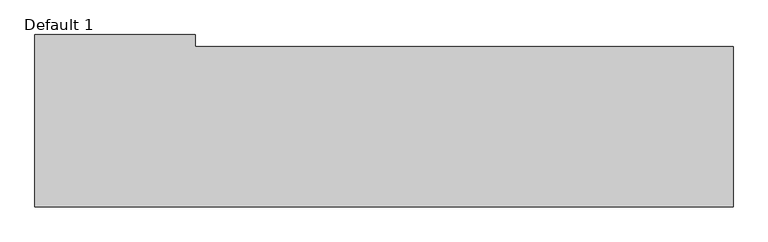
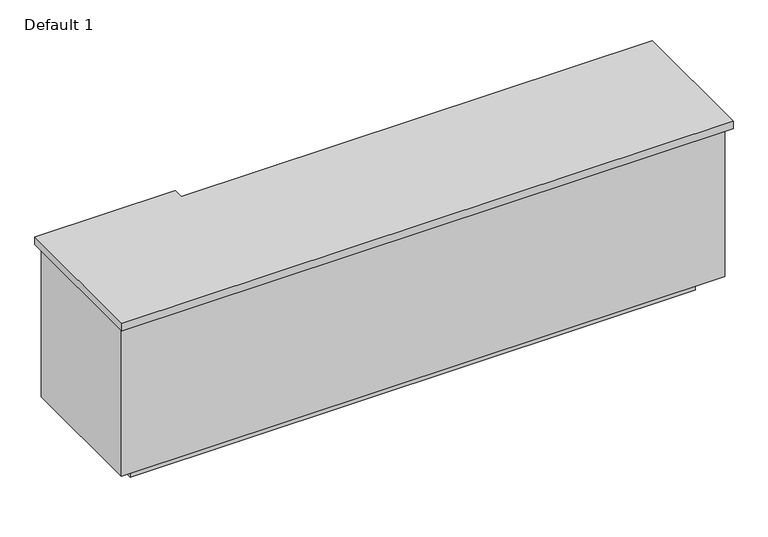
"""IFC4 building model written with IfcOpenShell, lengths in millimetres: proxy geometry, Countertop- L  Shape base : Default 1."""

from ifc_helpers import new_model, si_unit, frame, origin, origin_with_axes, place, context, project, spatial, polyline, outline, extrude, source, transform, mapped, element, save


def default_1_c051f466(model_context):
    return source(origin(), model_context, "Body", "SweptSolid", [
        extrude(outline(polyline([(-1434.6, -19.05), (-1434.6, 711.2), (-755.15, 711.2), (-755.15, 660.4), (1524.5, 660.4), (1524.5, -19.05), (-1434.6, -19.05)])), frame((0.0, 0.0, 876.3), z_axis=(0.0, 0.0, 1.0), x_axis=(1.0, 0.0, 0.0)), (0.0, 0.0, 1.0), 38.1),
        extrude(outline(polyline([(1505.45, 641.35), (1505.45, 19.05), (-1415.55, 19.05), (-1415.55, 692.15), (-774.2, 692.15), (-774.2, 641.35), (1505.45, 641.35)])), frame((0.0, 0.0, 101.6), z_axis=(0.0, 0.0, 1.0), x_axis=(1.0, 0.0, 0.0)), (0.0, 0.0, 1.0), 774.7),
        extrude(outline(polyline([(-850.5545837, 590.55), (-850.5545837, 539.75), (1422.9, 539.75), (1422.9, 120.65), (-1313.95, 120.65), (-1313.95, 590.55), (-850.5545837, 590.55)])), origin_with_axes(), (0.0, 0.0, 1.0), 101.6),
    ])


if __name__ == "__main__":
    model = new_model("IFC4")
    model_context = context("Model", 3, world=origin())
    ifc_project = project(units=[si_unit("LENGTHUNIT", "METRE", prefix="MILLI")], contexts=[model_context])
    site = spatial("IfcSite", under=ifc_project)
    building = spatial("IfcBuilding", under=site)
    placement = place(None, origin())
    default_1_shape = default_1_c051f466(model_context)
    element("IfcBuildingElementProxy", 1, Name="Countertop- L  Shape base : Default 1", ObjectType="Countertop- L  Shape base : Default 1", at=placement, inside=building, context=model_context, shape_type="MappedRepresentation", body=[
        mapped(default_1_shape, transform((0.0, 0.0, 0.0), x_axis=(1.0, 0.0, 0.0), y_axis=(0.0, 1.0, 0.0), z_axis=(0.0, 0.0, 1.0))),
    ])
    save(model, "model.ifc")
